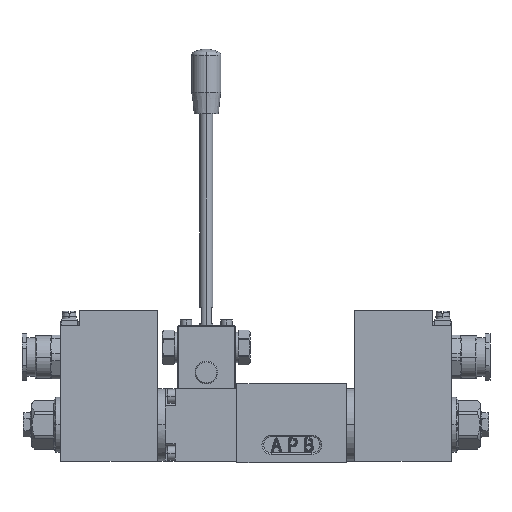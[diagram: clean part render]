
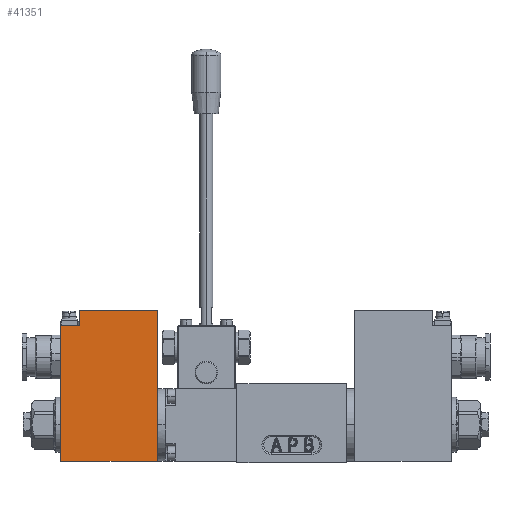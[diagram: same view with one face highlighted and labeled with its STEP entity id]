
A CAD part, top view. The second image highlights one B-rep face of the part: STEP entity #41351.
In plain terms, the highlighted planar face has unit normal (0, 0, 1).
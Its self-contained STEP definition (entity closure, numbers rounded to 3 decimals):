
#404 = CARTESIAN_POINT ( 'NONE',  ( -49.35, -23.5, 22.5 ) ) ;
#970 = DIRECTION ( 'NONE',  ( 0., -1., 0. ) ) ;
#1522 = LINE ( 'NONE', #20966, #51440 ) ;
#4519 = VECTOR ( 'NONE', #16942, 1000. ) ;
#5585 = CARTESIAN_POINT ( 'NONE',  ( -109.35, -23.5, 22.5 ) ) ;
#6296 = LINE ( 'NONE', #47051, #56222 ) ;
#8037 = AXIS2_PLACEMENT_3D ( 'NONE', #45178, #14070, #62196 ) ;
#9282 = CARTESIAN_POINT ( 'NONE',  ( -49.35, -23.5, 22.5 ) ) ;
#10417 = ORIENTED_EDGE ( 'NONE', *, *, #46364, .F. ) ;
#10590 = LINE ( 'NONE', #9282, #59758 ) ;
#10671 = DIRECTION ( 'NONE',  ( -1., 0., 0. ) ) ;
#10869 = LINE ( 'NONE', #12173, #27563 ) ;
#12173 = CARTESIAN_POINT ( 'NONE',  ( -49.35, -23.5, 22.5 ) ) ;
#12945 = CARTESIAN_POINT ( 'NONE',  ( -49.35, -1., 22.5 ) ) ;
#13495 = VERTEX_POINT ( 'NONE', #66274 ) ;
#13843 = PLANE ( 'NONE',  #8037 ) ;
#14070 = DIRECTION ( 'NONE',  ( 0., 0., -1. ) ) ;
#16275 = ORIENTED_EDGE ( 'NONE', *, *, #68140, .F. ) ;
#16942 = DIRECTION ( 'NONE',  ( -1., 0., 0. ) ) ;
#17286 = CARTESIAN_POINT ( 'NONE',  ( -97.35, 69.8, 22.5 ) ) ;
#18671 = VERTEX_POINT ( 'NONE', #12945 ) ;
#20966 = CARTESIAN_POINT ( 'NONE',  ( -49.35, 69.8, 22.5 ) ) ;
#21610 = ORIENTED_EDGE ( 'NONE', *, *, #52731, .F. ) ;
#26237 = CARTESIAN_POINT ( 'NONE',  ( -109.35, 60.3, 22.5 ) ) ;
#26590 = ORIENTED_EDGE ( 'NONE', *, *, #32248, .T. ) ;
#26777 = CARTESIAN_POINT ( 'NONE',  ( -109.35, 60.3, 22.5 ) ) ;
#26927 = DIRECTION ( 'NONE',  ( 1., 0., 0. ) ) ;
#27563 = VECTOR ( 'NONE', #970, 1000. ) ;
#28079 = EDGE_LOOP ( 'NONE', ( #26590, #59715, #10417, #65606, #65392, #16275, #21610 ) ) ;
#31884 = LINE ( 'NONE', #42008, #63278 ) ;
#32223 = VERTEX_POINT ( 'NONE', #5585 ) ;
#32248 = EDGE_CURVE ( 'NONE', #34616, #68135, #1522, .T. ) ;
#33637 = CARTESIAN_POINT ( 'NONE',  ( -49.35, -23.5, 22.5 ) ) ;
#34061 = VERTEX_POINT ( 'NONE', #26777 ) ;
#34095 = LINE ( 'NONE', #26237, #44846 ) ;
#34616 = VERTEX_POINT ( 'NONE', #42874 ) ;
#40710 = DIRECTION ( 'NONE',  ( 0., -1., 0. ) ) ;
#41169 = VERTEX_POINT ( 'NONE', #33637 ) ;
#41351 = ADVANCED_FACE ( 'NONE', ( #55253 ), #13843, .F. ) ;
#42008 = CARTESIAN_POINT ( 'NONE',  ( -97.35, 60.3, 22.5 ) ) ;
#42190 = DIRECTION ( 'NONE',  ( 0., -1., 0. ) ) ;
#42874 = CARTESIAN_POINT ( 'NONE',  ( -49.35, 69.8, 22.5 ) ) ;
#44846 = VECTOR ( 'NONE', #26927, 1000. ) ;
#45178 = CARTESIAN_POINT ( 'NONE',  ( -49.35, -23.5, 22.5 ) ) ;
#46364 = EDGE_CURVE ( 'NONE', #34061, #13495, #34095, .T. ) ;
#47051 = CARTESIAN_POINT ( 'NONE',  ( -109.35, -23.5, 22.5 ) ) ;
#48578 = LINE ( 'NONE', #404, #4519 ) ;
#51306 = EDGE_CURVE ( 'NONE', #13495, #68135, #31884, .T. ) ;
#51440 = VECTOR ( 'NONE', #10671, 1000. ) ;
#52492 = DIRECTION ( 'NONE',  ( 0., 1., 0. ) ) ;
#52731 = EDGE_CURVE ( 'NONE', #34616, #18671, #10590, .T. ) ;
#53472 = EDGE_CURVE ( 'NONE', #34061, #32223, #6296, .T. ) ;
#55253 = FACE_OUTER_BOUND ( 'NONE', #28079, .T. ) ;
#56222 = VECTOR ( 'NONE', #42190, 1000. ) ;
#58236 = EDGE_CURVE ( 'NONE', #41169, #32223, #48578, .T. ) ;
#59715 = ORIENTED_EDGE ( 'NONE', *, *, #51306, .F. ) ;
#59758 = VECTOR ( 'NONE', #40710, 1000. ) ;
#62196 = DIRECTION ( 'NONE',  ( -1., 0., 0. ) ) ;
#63278 = VECTOR ( 'NONE', #52492, 1000. ) ;
#65392 = ORIENTED_EDGE ( 'NONE', *, *, #58236, .F. ) ;
#65606 = ORIENTED_EDGE ( 'NONE', *, *, #53472, .T. ) ;
#66274 = CARTESIAN_POINT ( 'NONE',  ( -97.35, 60.3, 22.5 ) ) ;
#68135 = VERTEX_POINT ( 'NONE', #17286 ) ;
#68140 = EDGE_CURVE ( 'NONE', #18671, #41169, #10869, .T. ) ;
